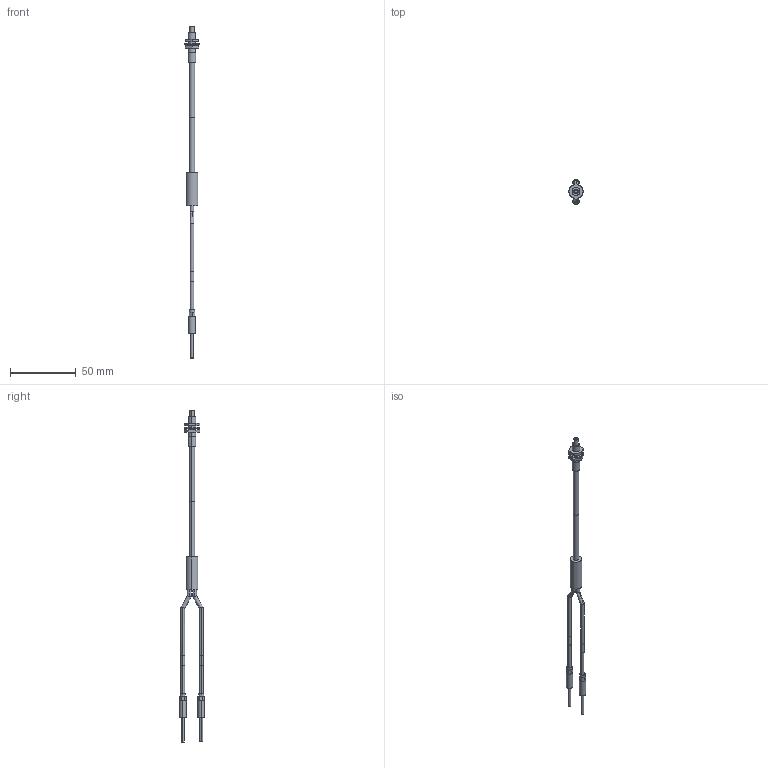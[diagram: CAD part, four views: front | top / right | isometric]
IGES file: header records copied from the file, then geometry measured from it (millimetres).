
Start section: SolidWorks IGES FILE using analytic representation for surfaces
Global section: file name: \\Intra-srv04\開発データ\CAD_Data\CAD委員会\3D電子ｶﾀﾛｸﾞ\製品カタログ（新）\0_IGES\FD-H20-M1.IGS,41HSolidWorks 2004; native system: by SolidWorks Corporation; preprocessor: Version 5.3; author: YK0651; date: 050909.142048; units: millimetre
Bounding box: 11 x 19 x 253 mm (x, y, z)
Volume: 5721.4 mm3; surface area: 5711.2 mm2
Topology: 9 solids, 9 shells, 116 faces, 237 edges, 150 vertices
Faces by surface type: plane 66, revolution 50
